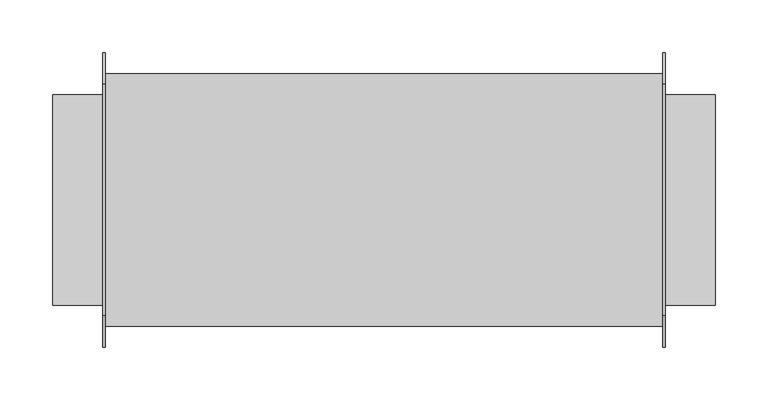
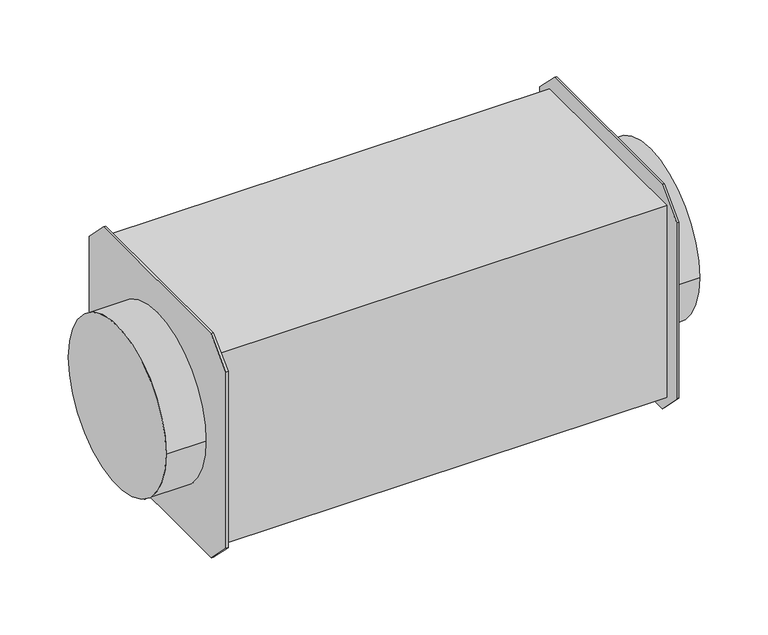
"""IFC4 building model written with IfcOpenShell, lengths in millimetres: unitary equipment geometry, 140_VAV_変風量ユニット_丸ダクト用 : 変風量ユニット_丸ダクト用."""

from ifc_helpers import new_model, si_unit, point, frame, origin, origin_2d, place, context, project, spatial, polyline, circle_curve, trimmed, segment, composite_curve, outline, extrude, source, transform, mapped, element, save


def unitary_equipment_afc2c685(model_context):
    return source(origin(), model_context, "Body", "SweptSolid", [
        extrude(outline(polyline([(110.0, -140.0), (-110.0, -140.0), (-140.0, -110.0), (-140.0, 110.0), (-110.0, 140.0), (110.0, 140.0), (140.0, 110.0), (140.0, -110.0), (110.0, -140.0)])), frame((265.0, 0.0, 0.0), z_axis=(1.0, 0.0, 0.0), x_axis=(0.0, 1.0, 0.0)), (0.0, 0.0, 1.0), 2.5),
        extrude(outline(polyline([(110.0, -140.0), (-110.0, -140.0), (-140.0, -110.0), (-140.0, 110.0), (-110.0, 140.0), (110.0, 140.0), (140.0, 110.0), (140.0, -110.0), (110.0, -140.0)])), frame((-267.5, 0.0, 0.0), z_axis=(1.0, 0.0, 0.0), x_axis=(0.0, 1.0, 0.0)), (0.0, 0.0, 1.0), 2.5),
        extrude(outline(composite_curve([segment(trimmed(circle_curve(origin_2d(), 100.0), [point((100.0, 0.0))], [point((-100.0, 0.0))], False, "CARTESIAN"), True, "CONTINUOUS"), segment(trimmed(circle_curve(origin_2d(), 100.0), [point((-100.0, 0.0))], [point((100.0, 0.0))], False, "CARTESIAN"), True, "CONTINUOUS")], self_intersect=False)), frame((265.0, 0.0, 0.0), z_axis=(1.0, 0.0, 0.0), x_axis=(0.0, 1.0, 0.0)), (0.0, 0.0, 1.0), 50.0),
        extrude(outline(composite_curve([segment(trimmed(circle_curve(origin_2d(), 100.0), [point((100.0, 0.0))], [point((-100.0, 0.0))], False, "CARTESIAN"), True, "CONTINUOUS"), segment(trimmed(circle_curve(origin_2d(), 100.0), [point((-100.0, 0.0))], [point((100.0, 0.0))], False, "CARTESIAN"), True, "CONTINUOUS")], self_intersect=False)), frame((-315.0, 0.0, 0.0), z_axis=(1.0, 0.0, 0.0), x_axis=(0.0, 1.0, 0.0)), (0.0, 0.0, 1.0), 50.0),
        extrude(outline(polyline([(265.0, -120.0), (-265.0, -120.0), (-265.0, 120.0), (265.0, 120.0), (265.0, -120.0)])), frame((0.0, 0.0, -120.0), z_axis=(0.0, 0.0, 1.0), x_axis=(1.0, 0.0, 0.0)), (0.0, 0.0, 1.0), 240.0),
    ])


if __name__ == "__main__":
    model = new_model("IFC4")
    model_context = context("Model", 3, world=origin())
    ifc_project = project(units=[si_unit("LENGTHUNIT", "METRE", prefix="MILLI")], contexts=[model_context])
    site = spatial("IfcSite", under=ifc_project)
    building = spatial("IfcBuilding", under=site)
    placement = place(None, origin())
    unitary_equipment_shape = unitary_equipment_afc2c685(model_context)
    element("IfcUnitaryEquipment", 1, ObjectType="140_VAV_変風量ユニット_丸ダクト用 : 変風量ユニット_丸ダクト用", at=placement, inside=building, context=model_context, shape_type="MappedRepresentation", body=[
        mapped(unitary_equipment_shape, transform((0.0, 0.0, 0.0), x_axis=(1.0, 0.0, 0.0), y_axis=(0.0, 1.0, 0.0), z_axis=(0.0, 0.0, 1.0))),
    ])
    save(model, "model.ifc")
